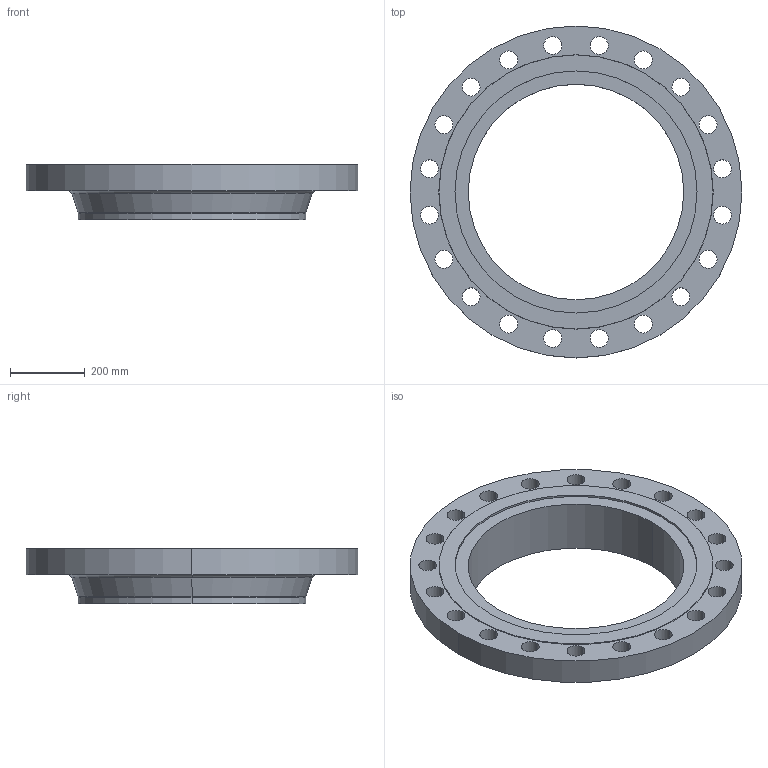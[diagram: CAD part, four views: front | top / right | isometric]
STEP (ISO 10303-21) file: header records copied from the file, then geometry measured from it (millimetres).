
FILE_DESCRIPTION (( 'STEP AP214' ), '1' );
FILE_NAME ('PN40 DN600 Type 11 - Type G Face.STEP', '2018-12-29T04:42:15', ( '' ), ( '' ), 'SwSTEP 2.0', 'SolidWorks 2019', '' );
FILE_SCHEMA (( 'AUTOMOTIVE_DESIGN' ));
Length unit declared in the file: millimetre
Products named in the file (1): PN40 DN600 Type 11 - Type G Face
Bounding box: 890 x 890 x 150 mm (x, y, z)
Volume: 26080626.1 mm3; surface area: 1447529.8 mm2
Topology: 1 solids, 1 shells, 61 faces, 162 edges, 106 vertices
Faces by surface type: cylinder 48, plane 5, torus 4, cone 4
Entity records: 2076 total; most frequent: DIRECTION 396, CARTESIAN_POINT 330, ORIENTED_EDGE 324, AXIS2_PLACEMENT_3D 172, EDGE_CURVE 162, CIRCLE 110, VERTEX_POINT 106, EDGE_LOOP 106
